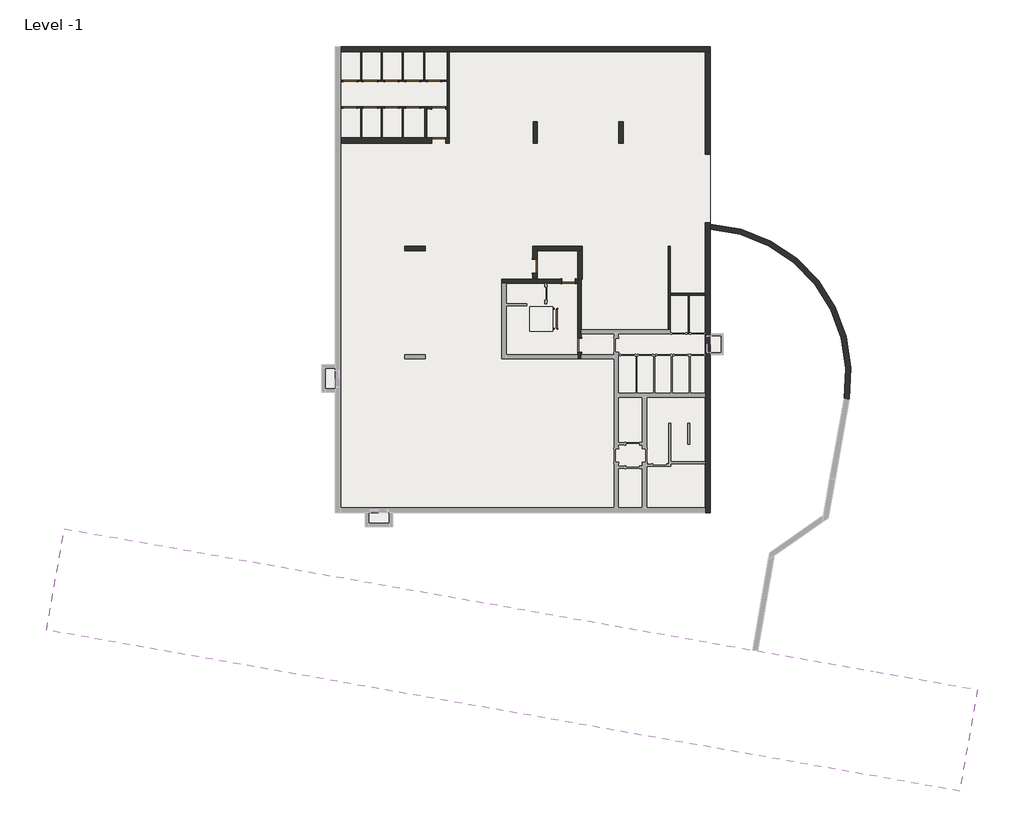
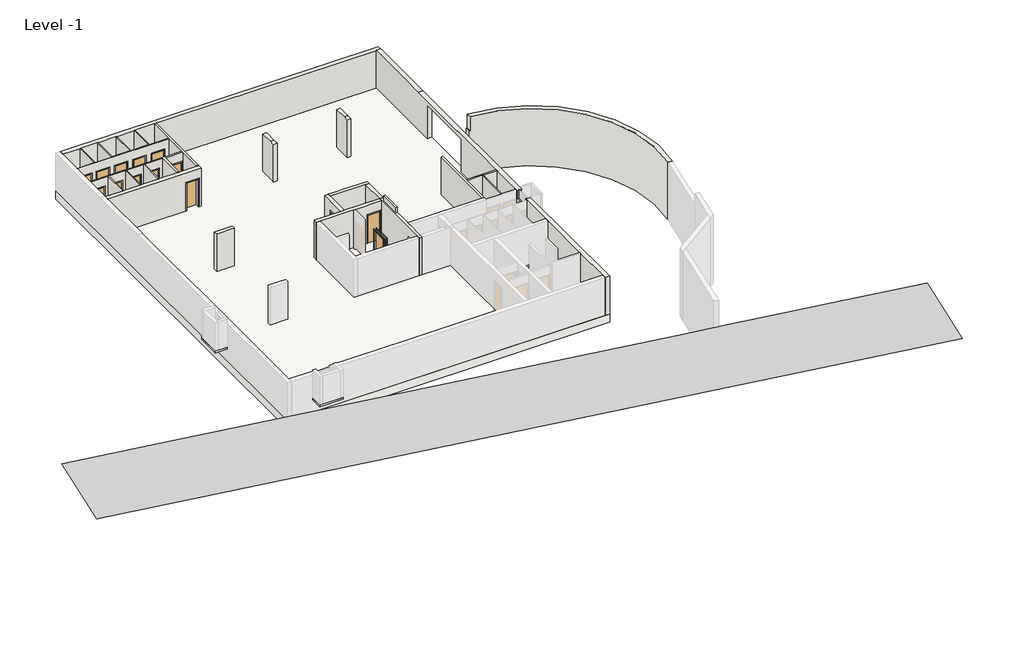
# One storey, part 2 of 2: 27 walls, 14 doors, 5 slabs, 1 proxy.
"""IFC4 building model written with IfcOpenShell, lengths in millimetres."""

from ifc_helpers import new_model, si_unit, frame, origin, place, context, project, spatial, polyline, circle_curve, outline, extrude, faceted_brep, triangles, transform, mapped, element, save
from ifc_brep_helpers import plane_surface, cylinder_surface, revolved_surface, advanced_brep
from components import standard_door_sd_1100x2000_1d62120a, standard_door_sd_800x2000_125e4961, standard_door_sd_800x2000_3ea96131, standard_door_sd_800x2000_59be3646, standard_door_sd_800x2000_a65bdf52, standard_door_sd_800x2000_c4456082

model = new_model("IFC4")

# Units and contexts
model_context = context("Model", 3, world=origin())
ifc_project = project(units=[si_unit("LENGTHUNIT", "METRE", prefix="MILLI")], contexts=[model_context])

# Site, building, storey
site = spatial("IfcSite", under=ifc_project)
building = spatial("IfcBuilding", under=site)
storey = spatial("IfcBuildingStorey", under=building, Name="Level -1", Elevation=-3100.0)

# Proxy
placement = place(None, origin())
element("IfcBuildingElementProxy", 1, Name="Building Element Proxy", at=placement, inside=storey, context=model_context, shape_type="Tessellation", body=[
    triangles([(-29384.1506104, -17883.2107544, -100.0000008), (23796.8823486, -27260.4616333, -100.0000008), (24837.1421082, -21349.2898865, -100.0000008), (18927.9481476, -20309.3766174, -100.0000008), (18632.5057159, -20257.2821228, -100.0000008), (12034.2933472, -19093.8403473, -100.0000008), (10244.7211853, -18780.6943451, -100.0000008), (-22215.7881592, -13057.0262695, -100.0000008), (-28342.6723206, -11976.6910492, -100.0000008)], [[1, 7, 8], [7, 1, 2], [8, 9, 1], [2, 3, 4], [2, 5, 6], [5, 2, 4], [2, 6, 7]], closed=False),
])

# Doors
standard_door_sd_1100x2000_shape = standard_door_sd_1100x2000_1d62120a(model_context)
element("IfcDoor", 2, ObjectType="Standard Door : SD 1100x2000", at=placement, inside=storey, context=model_context, shape_type="MappedRepresentation", body=[
    mapped(standard_door_sd_1100x2000_shape, transform((277.8037835, 250.1290541, -3100.0), x_axis=(0.0, -1.0, 0.0), y_axis=(1.0, 0.0, 0.0), z_axis=(0.0, 0.0, 1.0))),
])
standard_door_sd_800x2000_shape = standard_door_sd_800x2000_125e4961(model_context)
element("IfcDoor", 3, ObjectType="Standard Door : SD 800x2000", at=placement, inside=storey, context=model_context, shape_type="MappedRepresentation", body=[
    mapped(standard_door_sd_800x2000_shape, transform((-6815.2612912, 14107.6290541, -3100.0), x_axis=(1.0, 0.0, 0.0), y_axis=(0.0, 1.0, 0.0), z_axis=(0.0, 0.0, 1.0))),
])
element("IfcDoor", 4, ObjectType="Standard Door : SD 800x2000", at=placement, inside=storey, context=model_context, shape_type="MappedRepresentation", body=[
    mapped(standard_door_sd_800x2000_shape, transform((-8055.2612912, 14107.6290541, -3100.0), x_axis=(1.0, 0.0, 0.0), y_axis=(0.0, 1.0, 0.0), z_axis=(0.0, 0.0, 1.0))),
])
element("IfcDoor", 5, ObjectType="Standard Door : SD 800x2000", at=placement, inside=storey, context=model_context, shape_type="MappedRepresentation", body=[
    mapped(standard_door_sd_800x2000_shape, transform((-9295.2612912, 14107.6290541, -3100.0), x_axis=(1.0, 0.0, 0.0), y_axis=(0.0, 1.0, 0.0), z_axis=(0.0, 0.0, 1.0))),
])
element("IfcDoor", 6, ObjectType="Standard Door : SD 800x2000", at=placement, inside=storey, context=model_context, shape_type="MappedRepresentation", body=[
    mapped(standard_door_sd_800x2000_shape, transform((-10535.2612912, 14107.6290541, -3100.0), x_axis=(1.0, 0.0, 0.0), y_axis=(0.0, 1.0, 0.0), z_axis=(0.0, 0.0, 1.0))),
])
element("IfcDoor", 7, ObjectType="Standard Door : SD 800x2000", at=placement, inside=storey, context=model_context, shape_type="MappedRepresentation", body=[
    mapped(standard_door_sd_800x2000_shape, transform((-11715.2612912, 14107.6290541, -3100.0), x_axis=(1.0, 0.0, 0.0), y_axis=(0.0, 1.0, 0.0), z_axis=(0.0, 0.0, 1.0))),
])
standard_door_sd_800x2000_2_shape = standard_door_sd_800x2000_3ea96131(model_context)
element("IfcDoor", 8, ObjectType="Standard Door : SD 800x2000", at=placement, inside=storey, context=model_context, shape_type="MappedRepresentation", body=[
    mapped(standard_door_sd_800x2000_2_shape, transform((-11715.2612912, 12567.6290541, -3100.0), x_axis=(1.0, 0.0, 0.0), y_axis=(0.0, 1.0, 0.0), z_axis=(0.0, 0.0, 1.0))),
])
element("IfcDoor", 9, ObjectType="Standard Door : SD 800x2000", at=placement, inside=storey, context=model_context, shape_type="MappedRepresentation", body=[
    mapped(standard_door_sd_800x2000_2_shape, transform((-10535.2612912, 12567.6290541, -3100.0), x_axis=(1.0, 0.0, 0.0), y_axis=(0.0, 1.0, 0.0), z_axis=(0.0, 0.0, 1.0))),
])
element("IfcDoor", 10, ObjectType="Standard Door : SD 800x2000", at=placement, inside=storey, context=model_context, shape_type="MappedRepresentation", body=[
    mapped(standard_door_sd_800x2000_2_shape, transform((-9295.2612912, 12567.6290541, -3100.0), x_axis=(1.0, 0.0, 0.0), y_axis=(0.0, 1.0, 0.0), z_axis=(0.0, 0.0, 1.0))),
])
element("IfcDoor", 11, ObjectType="Standard Door : SD 800x2000", at=placement, inside=storey, context=model_context, shape_type="MappedRepresentation", body=[
    mapped(standard_door_sd_800x2000_2_shape, transform((-8055.2612912, 12567.6290541, -3100.0), x_axis=(1.0, 0.0, 0.0), y_axis=(0.0, 1.0, 0.0), z_axis=(0.0, 0.0, 1.0))),
])
standard_door_sd_800x2000_3_shape = standard_door_sd_800x2000_59be3646(model_context)
element("IfcDoor", 12, ObjectType="Standard Door : SD 800x2000", at=placement, inside=storey, context=model_context, shape_type="MappedRepresentation", body=[
    mapped(standard_door_sd_800x2000_3_shape, transform((-937.1911601, 3317.6290541, -3100.0), x_axis=(0.0, -1.0, 0.0), y_axis=(1.0, 0.0, 0.0), z_axis=(0.0, 0.0, 1.0))),
])
element("IfcDoor", 13, ObjectType="Standard Door : SD 800x2000", at=placement, inside=storey, context=model_context, shape_type="MappedRepresentation", body=[
    mapped(standard_door_sd_800x2000_3_shape, transform((1022.8088399, 2442.6290541, -3100.0), x_axis=(-1.0, 0.0, 0.0), y_axis=(0.0, -1.0, 0.0), z_axis=(0.0, 0.0, 1.0))),
])
standard_door_sd_800x2000_4_shape = standard_door_sd_800x2000_a65bdf52(model_context)
element("IfcDoor", 14, ObjectType="Standard Door : SD 800x2000", at=placement, inside=storey, context=model_context, shape_type="MappedRepresentation", body=[
    mapped(standard_door_sd_800x2000_4_shape, transform((-6533.5911601, 10637.6290541, -3100.0), x_axis=(-1.0, 0.0, 0.0), y_axis=(0.0, -1.0, 0.0), z_axis=(0.0, 0.0, 1.0))),
])
standard_door_sd_800x2000_5_shape = standard_door_sd_800x2000_c4456082(model_context)
element("IfcDoor", 15, ObjectType="Standard Door : SD 800x2000", at=placement, inside=storey, context=model_context, shape_type="MappedRepresentation", body=[
    mapped(standard_door_sd_800x2000_5_shape, transform((-6533.5911601, 12532.6290541, -3100.0), x_axis=(-1.0, 0.0, 0.0), y_axis=(0.0, -1.0, 0.0), z_axis=(0.0, 0.0, 1.0))),
])

# Slabs
element("IfcSlab", 16, ObjectType="STB120 Light Pit", at=placement, inside=storey, context=model_context, shape_type="Brep", body=[
    faceted_brep([(-12557.1911601, -2432.3709459, -2220.0), (-12557.1911601, -4032.3709459, -2220.0), (-13363.5911601, -4032.3709459, -2220.0), (-13363.5911601, -2432.3709459, -2220.0), (-12557.1911601, -2432.3709459, -2100.0), (-13363.5911601, -2432.3709459, -2100.0), (-13363.5911601, -2632.3709459, -2100.0), (-13363.5911601, -4032.3709459, -2100.0), (-13163.5911601, -4032.3709459, -2100.0), (-12557.1911601, -4032.3709459, -2100.0)], [[[0, 1, 2, 3]], [[4, 5, 6, 7, 8, 9]], [[1, 0, 4, 9]], [[2, 1, 9, 8, 7]], [[3, 2, 7, 6, 5]], [[0, 3, 5, 4]]]),
])
element("IfcSlab", 17, ObjectType="STB120 Light Pit", at=placement, inside=storey, context=model_context, shape_type="Brep", body=[
    faceted_brep([(-9223.5911601, -11872.3709459, -2220.0), (-10823.5911601, -11872.3709459, -2220.0), (-10823.5911601, -11052.3709459, -2220.0), (-9223.5911601, -11052.3709459, -2220.0), (-9223.5911601, -11872.3709459, -2100.0), (-9223.5911601, -11052.3709459, -2100.0), (-10823.5911601, -11052.3709459, -2100.0), (-10823.5911601, -11872.3709459, -2100.0), (-10623.5911601, -11872.3709459, -2100.0), (-9423.5911601, -11872.3709459, -2100.0)], [[[0, 1, 2, 3]], [[4, 5, 6, 7, 8, 9]], [[1, 0, 4, 9, 8, 7]], [[2, 1, 7, 6]], [[3, 2, 6, 5]], [[0, 3, 5, 4]]]),
])
element("IfcSlab", 18, ObjectType="STB120 Light Pit", at=placement, inside=storey, context=model_context, shape_type="Brep", body=[
    faceted_brep([(10036.4088399, -1852.3709459, -2220.0), (9282.8088399, -1852.3709459, -2220.0), (9282.8088399, -612.3709455, -2220.0), (10036.4088399, -612.3709455, -2220.0), (10036.4088399, -1852.3709459, -2100.0), (10036.4088399, -732.3709455, -2100.0), (10036.4088399, -612.3709455, -2100.0), (9282.8088399, -612.3709455, -2100.0), (9282.8088399, -1852.3709459, -2100.0), (9916.4088399, -1852.3709459, -2100.0)], [[[0, 1, 2, 3]], [[4, 5, 6, 7, 8, 9]], [[1, 0, 4, 9, 8]], [[2, 1, 8, 7]], [[3, 2, 7, 6]], [[0, 3, 6, 5, 4]]]),
])
element("IfcSlab", 19, ObjectType="STB400", at=placement, inside=storey, context=model_context, shape_type="Brep", body=[
    faceted_brep([(362.8037835, 1117.6290541, -4900.0), (362.8037835, -632.3709459, -4900.0), (-1407.1962165, -632.3709459, -4900.0), (-1407.1962165, 1117.6290541, -4900.0), (362.8037835, 1117.6290541, -4500.0), (-1407.1962165, 1117.6290541, -4500.0), (-1407.1962165, 947.6290541, -4500.0), (-1407.1962165, -632.3709459, -4500.0), (-1237.1962165, -632.3709459, -4500.0), (362.8037835, -632.3709459, -4500.0), (362.8037835, -462.3709459, -4500.0), (362.8037835, 947.6290541, -4500.0)], [[[0, 1, 2, 3]], [[4, 5, 6, 7, 8, 9, 10, 11]], [[1, 0, 4, 11, 10, 9]], [[2, 1, 9, 8, 7]], [[3, 2, 7, 6, 5]], [[0, 3, 5, 4]]]),
])
element("IfcSlab", 20, ObjectType="STB400 + 180 Lining", at=placement, inside=storey, context=model_context, shape_type="Brep", body=[
    faceted_brep([(9282.8088399, 16107.6290541, -3680.0), (9282.8088399, -11052.3709459, -3680.0), (-12557.1911601, -11052.3709459, -3680.0), (-12557.1911601, 16107.6290541, -3680.0), (87.8037835, 947.6290541, -3680.0), (-1237.1962165, 947.6290541, -3680.0), (-1237.1962165, -462.3709459, -3680.0), (87.8037835, -462.3709459, -3680.0), (9282.8088399, 16107.6290541, -3100.0), (-12257.1911601, 16107.6290541, -3100.0), (-12557.1911601, 16107.6290541, -3100.0), (-12557.1911601, -11052.3709459, -3100.0), (-12257.1911601, -11052.3709459, -3100.0), (8982.8088399, -11052.3709459, -3100.0), (9282.8088399, -11052.3709459, -3100.0), (9282.8088399, 5833.9107709, -3100.0), (9282.8088399, 9833.9107709, -3100.0), (9282.8088399, 15807.6290541, -3100.0), (87.8037835, 947.6290541, -3100.0), (87.8037835, -462.3709459, -3100.0), (-1237.1962165, -462.3709459, -3100.0), (-1237.1962165, 947.6290541, -3100.0)], [[[0, 1, 2, 3], [4, 5, 6, 7]], [[8, 9, 10, 11, 12, 13, 14, 15, 16, 17], [18, 19, 20, 21]], [[1, 0, 8, 17, 16, 15, 14]], [[2, 1, 14, 13, 12, 11]], [[3, 2, 11, 10]], [[0, 3, 10, 9, 8]], [[5, 4, 18, 21]], [[6, 5, 21, 20]], [[7, 6, 20, 19]], [[4, 7, 19, 18]]]),
])

# Walls
element("IfcWall", 21, ObjectType="Exterior - STB 300mm", at=placement, inside=storey, context=model_context, shape_type="Brep", body=[
    faceted_brep([(9282.8088399, 15807.6290541, -3100.0), (8982.8088399, 15807.6290541, -3100.0), (-5923.5911601, 15807.6290541, -3100.0), (-6043.5911601, 15807.6290541, -3100.0), (-7363.5911601, 15807.6290541, -3100.0), (-7413.5911601, 15807.6290541, -3100.0), (-8603.5911601, 15807.6290541, -3100.0), (-8653.5911601, 15807.6290541, -3100.0), (-9843.5911601, 15807.6290541, -3100.0), (-9893.5911601, 15807.6290541, -3100.0), (-11023.5911601, 15807.6290541, -3100.0), (-11073.5911601, 15807.6290541, -3100.0), (-12257.1911601, 15807.6290541, -3100.0), (-12257.1911601, 16107.6290541, -3100.0), (9282.8088399, 16107.6290541, -3100.0), (9282.8088399, 15807.6290541, -409.0), (-7363.5911601, 15807.6290541, -409.0), (-7413.5911601, 15807.6290541, -409.0), (-8603.5911601, 15807.6290541, -409.0), (-8653.5911601, 15807.6290541, -409.0), (-9843.5911601, 15807.6290541, -409.0), (-9893.5911601, 15807.6290541, -409.0), (-11023.5911601, 15807.6290541, -409.0), (-11073.5911601, 15807.6290541, -409.0), (-12257.1911601, 15807.6290541, -409.0), (-12257.1911601, 16107.6290541, -409.0), (9282.8088399, 16107.6290541, -409.0)], [[[0, 1, 2, 3, 4, 5, 6, 7, 8, 9, 10, 11, 12, 13, 14]], [[12, 11, 10, 9, 8, 7, 6, 5, 4, 3, 2, 1, 0, 15, 16, 17, 18, 19, 20, 21, 22, 23, 24]], [[13, 25, 26, 14]], [[12, 24, 25, 13]], [[15, 0, 14, 26]], [[24, 23, 22, 21, 20, 19, 18, 17, 16, 15, 26, 25]]]),
])
element("IfcWall", 22, ObjectType="Exterior - STB 300mm", at=placement, inside=storey, context=model_context, shape_type="Brep", body=[
    faceted_brep([(8982.8088399, 15807.6290541, -3100.0), (9282.8088399, 15807.6290541, -3100.0), (9282.8088399, 10769.2254579, -3100.0), (9282.8088399, 9901.4107709, -3100.0), (9282.8088399, 9833.9107709, -3100.0), (8982.8088399, 9833.9107709, -3100.0), (9282.8088399, -11052.3709459, -3100.0), (8982.8088399, -11052.3709459, -3100.0), (8982.8088399, -10752.3709459, -3100.0), (8982.8088399, -8182.3709459, -3100.0), (8982.8088399, -8062.3709459, -3100.0), (8982.8088399, -4332.3709459, -3100.0), (8982.8088399, -4082.3709459, -3100.0), (8982.8088399, -1882.3709459, -3100.0), (8982.8088399, -1832.3709459, -3100.0), (8982.8088399, -632.3709459, -3100.0), (8982.8088399, -582.3709459, -3100.0), (8982.8088399, 1617.6290541, -3100.0), (8982.8088399, 1737.6290541, -3100.0), (8982.8088399, 5833.9107709, -3100.0), (9282.8088399, 5833.9107709, -3100.0), (9282.8088399, 5766.4923812, -3100.0), (9282.8088399, 5465.8077821, -3100.0), (8982.8088399, 15807.6290541, -400.0), (8982.8088399, 9833.9107709, -700.0), (8982.8088399, 5833.9107709, -700.0), (8982.8088399, -11052.3709459, -400.0), (8982.8088399, -10752.3709459, -400.0), (8982.8088399, -8182.3709459, -400.0), (8982.8088399, -8062.3709459, -400.0), (8982.8088399, -8052.3709459, -400.0), (8982.8088399, -5832.3709459, -400.0), (8982.8088399, -4332.3709459, -400.0), (8982.8088399, -4082.3709459, -400.0), (8982.8088399, -1882.3709459, -400.0), (8982.8088399, -1832.3709459, -400.0), (8982.8088399, -1732.3709482, -400.0), (8982.8088399, -1732.3709482, -1000.0), (8982.8088399, -732.3709482, -1000.0), (8982.8088399, -732.3709482, -400.0), (8982.8088399, -632.3709459, -400.0), (8982.8088399, -582.3709459, -400.0), (8982.8088399, 1617.6290541, -400.0), (8982.8088399, 1737.6290541, -400.0), (8982.8088399, 10867.6290541, -400.0), (9282.8088399, 15807.6290541, -409.0), (9282.8088399, 15807.6290541, -400.0), (9282.8088399, 10867.6290541, -400.0), (9282.8088399, 10389.7527089, -400.0), (9282.8088399, 9901.4107709, -400.0), (9282.8088399, -732.3709482, -400.0), (9282.8088399, -732.3709482, -1000.0), (9282.8088399, -1732.3709482, -1000.0), (9282.8088399, -1732.3709482, -400.0), (9282.8088399, -11052.3709459, -400.0), (9282.8088399, 5833.9107709, -700.0), (9282.8088399, 9833.9107709, -700.0)], [[[0, 1, 2, 3, 4, 5]], [[6, 7, 8, 9, 10, 11, 12, 13, 14, 15, 16, 17, 18, 19, 20, 21, 22]], [[23, 0, 5, 24, 25, 19, 18, 17, 16, 15, 14, 13, 12, 11, 10, 9, 8, 7, 26, 27, 28, 29, 30, 31, 32, 33, 34, 35, 36, 37, 38, 39, 40, 41, 42, 43, 44]], [[1, 45, 46, 47, 48, 49, 50, 51, 52, 53, 54, 6, 22, 21, 20, 55, 56, 4, 3, 2]], [[0, 23, 46, 45, 1]], [[26, 7, 6, 54]], [[46, 23, 44, 47]], [[26, 54, 53, 36, 35, 34, 33, 32, 31, 30, 29, 28, 27]], [[47, 44, 43, 42, 41, 40, 39, 50, 49, 48]], [[56, 24, 5, 4]], [[25, 55, 20, 19]], [[24, 56, 55, 25]], [[38, 51, 50, 39]], [[52, 37, 36, 53]], [[51, 38, 37, 52]]]),
])
element("IfcWall", 23, ObjectType="Exterior - STB 300mm", at=placement, inside=storey, context=model_context, shape_type="Brep", body=[
    faceted_brep([(-12257.1911601, 10787.6290541, -3100.0), (-11073.5911601, 10787.6290541, -3100.0), (-11023.5911601, 10787.6290541, -3100.0), (-9893.5911601, 10787.6290541, -3100.0), (-9843.5911601, 10787.6290541, -3100.0), (-8653.5911601, 10787.6290541, -3100.0), (-8603.5911601, 10787.6290541, -3100.0), (-7363.5911601, 10787.6290541, -3100.0), (-7243.5911601, 10787.6290541, -3100.0), (-6933.5911601, 10787.6290541, -3100.0), (-6933.5911601, 10487.6290541, -3100.0), (-12257.1911601, 10487.6290541, -3100.0), (-6133.5911601, 10787.6290541, -3100.0), (-6043.5911601, 10787.6290541, -3100.0), (-5923.5911601, 10787.6290541, -3100.0), (-5923.5911601, 10487.6290541, -3100.0), (-6133.5911601, 10487.6290541, -3100.0), (-6933.5911601, 10487.6290541, -1100.0), (-6133.5911601, 10487.6290541, -1100.0), (-5923.5911601, 10487.6290541, -400.0), (-12257.1911601, 10487.6290541, -400.0), (-6933.5911601, 10787.6290541, -1100.0), (-12257.1911601, 10787.6290541, -400.0), (-11073.5911601, 10787.6290541, -400.0), (-11023.5911601, 10787.6290541, -400.0), (-9893.5911601, 10787.6290541, -400.0), (-9843.5911601, 10787.6290541, -400.0), (-8653.5911601, 10787.6290541, -400.0), (-8603.5911601, 10787.6290541, -400.0), (-7363.5911601, 10787.6290541, -400.0), (-7243.5911601, 10787.6290541, -400.0), (-6043.5911601, 10787.6290541, -400.0), (-5923.5911601, 10787.6290541, -400.0), (-6133.5911601, 10787.6290541, -1100.0)], [[[0, 1, 2, 3, 4, 5, 6, 7, 8, 9, 10, 11]], [[12, 13, 14, 15, 16]], [[11, 10, 17, 18, 16, 15, 19, 20]], [[21, 9, 8, 7, 6, 5, 4, 3, 2, 1, 0, 22, 23, 24, 25, 26, 27, 28, 29, 30, 31, 32, 14, 13, 12, 33]], [[11, 20, 22, 0]], [[19, 15, 14, 32]], [[20, 19, 32, 31, 30, 29, 28, 27, 26, 25, 24, 23, 22]], [[17, 10, 9, 21]], [[18, 17, 21, 33]], [[16, 18, 33, 12]]]),
])
element("IfcWall", 24, ObjectType="Exterior - STB 300mm", at=placement, inside=storey, context=model_context, shape_type="AdvancedBrep", body=[
    advanced_brep(
    [(17360.0752435, -4438.5110541, 1000.0), (9362.8037835, 5760.8115585, 1000.0), (9362.8037835, 5459.9248888, 1000.0), (17064.3928143, -4387.7782943, 1000.0), (17360.0752435, -4438.5110541, -3100.0), (17064.3928143, -4387.7782943, -3100.0), (9282.8088399, 5465.8077821, -3100.0), (9282.8088399, 5766.4923812, -3100.0), (9282.8088399, 5766.4923812, 0.0), (9362.8037835, 5760.8115585, 0.0), (9362.8037835, 5459.9248888, 0.0), (9282.8088399, 5465.8077821, 0.0)],
    [
        (0, 1, circle_curve(frame((8700.9450523, -2993.1355038, 1000.0), z_axis=(0.0, 0.0, 1.0), x_axis=(1.0, 0.0, 0.0)), 8778.9319481)),
        (1, 2),
        (2, 3, circle_curve(frame((8700.9450523, -2993.1355038, 1000.0), z_axis=(0.0, 0.0, -1.0), x_axis=(1.0, 0.0, 0.0)), 8478.9319481)),
        (3, 0),
        (4, 5),
        (5, 6, circle_curve(frame((8700.9450523, -2993.1355038, -3100.0), z_axis=(0.0, 0.0, 1.0), x_axis=(1.0, 0.0, 0.0)), 8478.9319481)),
        (6, 7),
        (7, 4, circle_curve(frame((8700.9450523, -2993.1355038, -3100.0), z_axis=(0.0, 0.0, -1.0), x_axis=(1.0, 0.0, 0.0)), 8778.9319481)),
        (0, 4),
        (7, 8),
        (8, 9, circle_curve(frame((8700.9450523, -2993.1355038, 0.0), z_axis=(0.0, 0.0, -1.0), x_axis=(1.0, 0.0, 0.0)), 8778.9319481)),
        (9, 1),
        (2, 10),
        (10, 11, circle_curve(frame((8700.9450523, -2993.1355038, 0.0), z_axis=(0.0, 0.0, 1.0), x_axis=(1.0, 0.0, 0.0)), 8478.9319481)),
        (11, 6),
        (5, 3),
        (10, 9),
        (8, 11),
    ],
    [
        plane_surface(frame((17479.8770004, -2993.1355038, 1000.0), z_axis=(0.0, 0.0, 1.0), x_axis=(0.0, 1.0, 0.0))),
        plane_surface(frame((17479.8770004, -2993.1355038, -3100.0), z_axis=(0.0, 0.0, -1.0), x_axis=(0.0, -1.0, 0.0))),
        cylinder_surface(frame((8700.9450523, -2993.1355038, -3100.0), z_axis=(0.0, 0.0, 1.0), x_axis=(1.0, 0.0, 0.0)), 8778.9319481),
        revolved_surface(polyline([(17179.8770004, -2993.1355038, -3100.0), (17179.8770004, -2993.1355038, 1000.0)]), (8700.9450523, -2993.1355038, -3100.0), (0.0, 0.0, -1.0)),
        plane_surface(frame((17064.3928143, -4387.7782943, -3100.0), z_axis=(-0.1691074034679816, -0.9855976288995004, 0.0), x_axis=(0.9855976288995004, -0.1691074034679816, 0.0))),
        plane_surface(frame((9140.3160921, 5774.7946533, 0.0), z_axis=(0.0, 0.0, 1.0), x_axis=(1.0, 0.0, 0.0))),
        plane_surface(frame((9282.8088399, 16107.6290541, -3100.0), z_axis=(-1.0, 0.0, 0.0), x_axis=(0.0, 1.0, 0.0))),
        plane_surface(frame((9362.8037835, 10567.6290541, 0.0), z_axis=(-1.0, 0.0, 0.0), x_axis=(0.0, 1.0, 0.0))),
    ],
    [
        (0, [[1, 2, 3, 4]]),
        (1, [[5, 6, 7, 8]]),
        (2, [[-1, 9, -8, 10, 11, 12]]),
        (3, [[-3, 13, 14, 15, -6, 16]]),
        (4, [[-4, -16, -5, -9]]),
        (5, [[17, -11, 18, -14]]),
        (6, [[-10, -7, -15, -18]]),
        (7, [[-2, -12, -17, -13]]),
    ],
),
])
element("IfcWall", 25, ObjectType="Interior - 120mm", at=placement, inside=storey, context=model_context, shape_type="Brep", body=[
    faceted_brep([(6946.4088399, -382.3709459, -3100.0), (6946.4088399, 1617.6290541, -3100.0), (6946.4088399, 1737.6290541, -3100.0), (6946.4088399, 4467.6290541, -3100.0), (6946.4088399, 4467.6290541, -400.0), (6946.4088399, 1737.6290541, -400.0), (6946.4088399, 1617.6290541, -400.0), (6946.4088399, -382.3709459, -400.0), (6826.4088399, -382.3709459, -3100.0), (6826.4088399, -382.3709459, -400.0), (6826.4088399, 4467.6290541, -400.0), (6826.4088399, 4467.6290541, -3100.0)], [[[0, 1, 2, 3, 4, 5, 6, 7]], [[8, 9, 10, 11]], [[3, 2, 1, 0, 8, 11]], [[4, 3, 11, 10]], [[0, 7, 9, 8]], [[7, 6, 5, 4, 10, 9]]]),
])
element("IfcWall", 26, ObjectType="Interior - 120mm", at=placement, inside=storey, context=model_context, shape_type="Brep", body=[
    faceted_brep([(6946.4088399, 1617.6290541, -3100.0), (7986.4088399, 1617.6290541, -3100.0), (8036.4088399, 1617.6290541, -3100.0), (8982.8088399, 1617.6290541, -3100.0), (8982.8088399, 1617.6290541, -400.0), (8036.4088399, 1617.6290541, -400.0), (7986.4088399, 1617.6290541, -400.0), (6946.4088399, 1617.6290541, -400.0), (6946.4088399, 1737.6290541, -3100.0), (6946.4088399, 1737.6290541, -400.0), (8982.8088399, 1737.6290541, -400.0), (8982.8088399, 1737.6290541, -3100.0)], [[[0, 1, 2, 3, 4, 5, 6, 7]], [[8, 9, 10, 11]], [[3, 2, 1, 0, 8, 11]], [[4, 3, 11, 10]], [[0, 7, 9, 8]], [[7, 6, 5, 4, 10, 9]]]),
])
element("IfcWall", 27, ObjectType="Interior - 120mm", at=placement, inside=storey, context=model_context, shape_type="Brep", body=[
    faceted_brep([(-5923.5911601, 10787.6290541, -3100.0), (-5923.5911601, 15807.6290541, -3100.0), (-5923.5911601, 15807.6290541, -400.0), (-5923.5911601, 10867.6290541, -400.0), (-5923.5911601, 10787.6290541, -400.0), (-6043.5911601, 10787.6290541, -3100.0), (-6043.5911601, 10787.6290541, -400.0), (-6043.5911601, 10867.6290541, -400.0), (-6043.5911601, 15807.6290541, -400.0), (-6043.5911601, 15807.6290541, -3100.0), (-6043.5911601, 14132.6290541, -3100.0), (-6043.5911601, 14082.6290541, -3100.0), (-6043.5911601, 12592.6290541, -3100.0), (-6043.5911601, 12472.6290541, -3100.0)], [[[0, 1, 2, 3, 4]], [[5, 6, 7, 8, 9, 10, 11, 12, 13]], [[1, 0, 5, 13, 12, 11, 10, 9]], [[0, 4, 6, 5]], [[2, 1, 9, 8]], [[3, 2, 8, 7]], [[4, 3, 7, 6]]]),
])
element("IfcWall", 28, ObjectType="Interior - 120mm", at=placement, inside=storey, context=model_context, shape_type="Brep", body=[
    faceted_brep([(-7243.5911601, 10787.6290541, -3100.0), (-7243.5911601, 12472.6290541, -3100.0), (-7243.5911601, 12592.6290541, -3100.0), (-7243.5911601, 12592.6290541, -409.0), (-7243.5911601, 12592.6290541, -400.0), (-7243.5911601, 10867.6290541, -400.0), (-7243.5911601, 10787.6290541, -400.0), (-7363.5911601, 10787.6290541, -3100.0), (-7363.5911601, 10787.6290541, -400.0), (-7363.5911601, 10867.6290541, -400.0), (-7363.5911601, 12592.6290541, -400.0), (-7363.5911601, 12592.6290541, -409.0), (-7363.5911601, 12592.6290541, -3100.0), (-7363.5911601, 12542.6290541, -3100.0)], [[[0, 1, 2, 3, 4, 5, 6]], [[7, 8, 9, 10, 11, 12, 13]], [[2, 1, 0, 7, 13, 12]], [[4, 3, 2, 12, 11, 10]], [[0, 6, 8, 7]], [[5, 4, 10, 9]], [[6, 5, 9, 8]]]),
])
element("IfcWall", 29, ObjectType="Interior - 120mm", at=placement, inside=storey, context=model_context, shape_type="SweptSolid", body=[
    extrude(outline(polyline([(-3100.0, -7243.5911601), (-3100.0, -6933.5911601), (-1100.0, -6933.5911601), (-1100.0, -6133.5911601), (-3100.0, -6133.5911601), (-3100.0, -6043.5911601), (-409.0, -6043.5911601), (-409.0, -7243.5911601), (-3100.0, -7243.5911601)])), frame((0.0, 12472.6290541, 0.0), z_axis=(0.0, 1.0, 0.0), x_axis=(0.0, 0.0, 1.0)), (0.0, 0.0, 1.0), 120.0),
])
element("IfcWall", 30, ObjectType="Interior - 200mm", at=placement, inside=storey, context=model_context, shape_type="Brep", body=[
    faceted_brep([(1562.8088399, -892.8016415, -3100.0), (1562.8088399, -892.8016415, -1100.0), (1562.8088399, -1692.8016415, -1100.0), (1562.8088399, -1692.8016415, -3100.0), (1562.8088399, -1832.3709459, -3100.0), (1562.8088399, -2082.3709459, -3100.0), (1562.8088399, -2082.3709459, -400.0), (1562.8088399, -1832.3709459, -400.0), (1562.8088399, 2317.6290541, -400.0), (1562.8088399, 2567.6290541, -400.0), (1562.8088399, 2567.6290541, -3100.0), (1562.8088399, 2317.6290541, -3100.0), (1762.8088399, -892.8016415, -1100.0), (1762.8088399, -892.8016415, -3100.0), (1762.8088399, -632.3709459, -3100.0), (1762.8088399, -382.3709459, -3100.0), (1762.8088399, 2567.6290541, -3100.0), (1762.8088399, 2567.6290541, -400.0), (1762.8088399, 2217.6290541, -400.0), (1762.8088399, 2217.6290541, 0.0), (1762.8088399, 817.6290541, 0.0), (1762.8088399, 817.6290541, -400.0), (1762.8088399, 567.6290541, -400.0), (1762.8088399, -382.3709459, -400.0), (1762.8088399, -632.3709459, -400.0), (1762.8088399, -1832.3709459, -400.0), (1762.8088399, -2082.3709459, -400.0), (1762.8088399, -2082.3709459, -3100.0), (1762.8088399, -1832.3709459, -3100.0), (1762.8088399, -1692.8016415, -3100.0), (1762.8088399, -1692.8016415, -1100.0), (1662.8088399, 2217.6290541, 0.0), (1662.8088399, 817.6290541, 0.0), (1662.8088399, 817.6290541, -400.0), (1662.8088399, 2217.6290541, -400.0)], [[[0, 1, 2, 3, 4, 5, 6, 7, 8, 9, 10, 11]], [[12, 13, 14, 15, 16, 17, 18, 19, 20, 21, 22, 23, 24, 25, 26, 27, 28, 29, 30]], [[10, 16, 15, 14, 13, 0, 11]], [[27, 5, 4, 3, 29, 28]], [[20, 19, 31, 32]], [[16, 10, 9, 17]], [[5, 27, 26, 6]], [[1, 0, 13, 12]], [[2, 1, 12, 30]], [[3, 2, 30, 29]], [[33, 34, 18, 17, 9, 8, 7, 6, 26, 25, 24, 23, 22, 21]], [[34, 33, 32, 31]], [[32, 33, 21, 20]], [[34, 31, 19, 18]]]),
])
element("IfcWall", 31, ObjectType="Interior - 250mm", at=placement, inside=storey, context=model_context, shape_type="Brep", body=[
    faceted_brep([(-2857.1911601, 2317.6290541, -3100.0), (-2607.1911601, 2317.6290541, -3100.0), (-357.1911601, 2317.6290541, -3100.0), (-237.1911601, 2317.6290541, -3100.0), (622.8088399, 2317.6290541, -3100.0), (622.8088399, 2317.6290541, -1100.0), (1422.8088399, 2317.6290541, -1100.0), (1422.8088399, 2317.6290541, -3100.0), (1562.8088399, 2317.6290541, -3100.0), (1562.8088399, 2317.6290541, -400.0), (-237.1911601, 2317.6290541, -400.0), (-357.1911601, 2317.6290541, -400.0), (-582.1962165, 2317.6290541, -400.0), (-2607.1962165, 2317.6290541, -400.0), (-2857.1911601, 2317.6290541, -400.0), (622.8088399, 2567.6290541, -1100.0), (622.8088399, 2567.6290541, -3100.0), (-812.1911601, 2567.6290541, -3100.0), (-1062.1911601, 2567.6290541, -3100.0), (-2857.1911601, 2567.6290541, -3100.0), (-2857.1911601, 2567.6290541, -400.0), (-1062.1911601, 2567.6290541, -400.0), (-812.1911601, 2567.6290541, -400.0), (1562.8088399, 2567.6290541, -400.0), (1562.8088399, 2567.6290541, -3100.0), (1422.8088399, 2567.6290541, -3100.0), (1422.8088399, 2567.6290541, -1100.0)], [[[0, 1, 2, 3, 4, 5, 6, 7, 8, 9, 10, 11, 12, 13, 14]], [[15, 16, 17, 18, 19, 20, 21, 22, 23, 24, 25, 26]], [[19, 18, 17, 16, 4, 3, 2, 1, 0]], [[25, 24, 8, 7]], [[9, 8, 24, 23]], [[0, 14, 20, 19]], [[14, 13, 12, 11, 10, 9, 23, 22, 21, 20]], [[5, 4, 16, 15]], [[6, 5, 15, 26]], [[7, 6, 26, 25]]]),
])
element("IfcWall", 32, ObjectType="Interior - 250mm", at=placement, inside=storey, context=model_context, shape_type="Brep", body=[
    faceted_brep([(-1062.1911601, 2567.6290541, -3100.0), (-1062.1911601, 2917.6290541, -3100.0), (-812.1911601, 2917.6290541, -3100.0), (-812.1911601, 2567.6290541, -3100.0), (-1062.1911601, 3717.6290541, -3100.0), (-1062.1911601, 4467.6290541, -3100.0), (-812.1911601, 4467.6290541, -3100.0), (-812.1911601, 4217.6290541, -3100.0), (-812.1911601, 3717.6290541, -3100.0), (-812.1911601, 2917.6290541, -1100.0), (-812.1911601, 3717.6290541, -1100.0), (-812.1911601, 4467.6290541, -400.0), (-812.1911601, 4217.6290541, -400.0), (-812.1911601, 2567.6290541, -400.0), (-1062.1911601, 2917.6290541, -1100.0), (-1062.1911601, 2567.6290541, -400.0), (-1062.1911601, 4467.6290541, -400.0), (-1062.1911601, 3717.6290541, -1100.0)], [[[0, 1, 2, 3]], [[4, 5, 6, 7, 8]], [[3, 2, 9, 10, 8, 7, 6, 11, 12, 13]], [[14, 1, 0, 15, 16, 5, 4, 17]], [[3, 13, 15, 0]], [[11, 6, 5, 16]], [[13, 12, 11, 16, 15]], [[9, 2, 1, 14]], [[10, 9, 14, 17]], [[8, 10, 17, 4]]]),
])
element("IfcWall", 33, ObjectType="Interior - 250mm", at=placement, inside=storey, context=model_context, shape_type="Brep", body=[
    faceted_brep([(-812.1911601, 4217.6290541, -3100.0), (1562.8088399, 4217.6290541, -3100.0), (1812.8088399, 4217.6290541, -3100.0), (1812.8088399, 4217.6290541, -400.0), (1562.8088399, 4217.6290541, -400.0), (-812.1911601, 4217.6290541, -400.0), (-812.1911601, 4467.6290541, -3100.0), (-812.1911601, 4467.6290541, -400.0), (-387.1962165, 4467.6290541, -400.0), (-137.1962165, 4467.6290541, -400.0), (112.8037835, 4467.6290541, -400.0), (1812.8088399, 4467.6290541, -400.0), (1812.8088399, 4467.6290541, -3100.0)], [[[0, 1, 2, 3, 4, 5]], [[6, 7, 8, 9, 10, 11, 12]], [[2, 1, 0, 6, 12]], [[3, 2, 12, 11]], [[0, 5, 7, 6]], [[5, 4, 3, 11, 10, 9, 8, 7]]]),
])
element("IfcWall", 34, ObjectType="Interior - 250mm", at=placement, inside=storey, context=model_context, shape_type="Brep", body=[
    faceted_brep([(1812.8088399, 2567.6290541, -3100.0), (1812.8088399, 4217.6290541, -3100.0), (1812.8088399, 4217.6290541, -400.0), (1812.8088399, 2567.6290541, -400.0), (1562.8088399, 2567.6290541, -3100.0), (1562.8088399, 2567.6290541, -400.0), (1562.8088399, 4217.6290541, -400.0), (1562.8088399, 4217.6290541, -3100.0), (1762.8088399, 2567.6290541, -3100.0), (1762.8088399, 2567.6290541, -400.0)], [[[0, 1, 2, 3]], [[4, 5, 6, 7]], [[1, 0, 8, 4, 7]], [[0, 3, 9, 5, 4, 8]], [[2, 1, 7, 6]], [[3, 2, 6, 5, 9]]]),
])
element("IfcWall", 35, ObjectType="Interior - 250mm", at=placement, inside=storey, context=model_context, shape_type="SweptSolid", body=[
    extrude(outline(polyline([(10487.6290541, -3100.0), (10487.6290541, -400.0), (10867.6290541, -400.0), (11717.6290541, -400.0), (11717.6290541, -3100.0), (10487.6290541, -3100.0)])), frame((-1048.5911601, 0.0, 0.0), z_axis=(1.0, 0.0, 0.0), x_axis=(0.0, 1.0, 0.0)), (0.0, 0.0, 1.0), 250.0),
])
element("IfcWall", 36, ObjectType="Interior - 250mm", at=placement, inside=storey, context=model_context, shape_type="SweptSolid", body=[
    extrude(outline(polyline([(10487.6290541, -3100.0), (10487.6290541, -400.0), (10867.6290541, -400.0), (11717.6290541, -400.0), (11717.6290541, -3100.0), (10487.6290541, -3100.0)])), frame((3951.4088399, 0.0, 0.0), z_axis=(1.0, 0.0, 0.0), x_axis=(0.0, 1.0, 0.0)), (0.0, 0.0, 1.0), 250.0),
])
element("IfcWall", 37, ObjectType="Interior - 250mm", at=placement, inside=storey, context=model_context, shape_type="SweptSolid", body=[
    extrude(outline(polyline([(-8523.5911601, 4467.6290541), (-7323.5911601, 4467.6290541), (-7323.5911601, 4217.6290541), (-8523.5911601, 4217.6290541), (-8523.5911601, 4467.6290541)])), frame((0.0, 0.0, -3100.0), z_axis=(0.0, 0.0, 1.0), x_axis=(1.0, 0.0, 0.0)), (0.0, 0.0, 1.0), 2700.0),
])
element("IfcWall", 38, ObjectType="Interior - 500mm", at=placement, inside=storey, context=model_context, shape_type="Brep", body=[
    faceted_brep([(-12257.1911601, 12542.6290541, -3100.0), (-12257.1911601, 12592.6290541, -3100.0), (-12115.2612912, 12592.6290541, -3100.0), (-12115.2612912, 12542.6290541, -3100.0), (-7363.5911601, 12592.6290541, -3100.0), (-7363.5911601, 12542.6290541, -3100.0), (-7655.2612912, 12542.6290541, -3100.0), (-7655.2612912, 12592.6290541, -3100.0), (-11315.2612912, 12542.6290541, -3100.0), (-11315.2612912, 12592.6290541, -3100.0), (-10935.2612912, 12592.6290541, -3100.0), (-10935.2612912, 12542.6290541, -3100.0), (-11023.5911601, 12542.6290541, -3100.0), (-11073.5911601, 12542.6290541, -3100.0), (-10135.2612912, 12542.6290541, -3100.0), (-10135.2612912, 12592.6290541, -3100.0), (-9695.2612912, 12592.6290541, -3100.0), (-9695.2612912, 12542.6290541, -3100.0), (-9843.5911601, 12542.6290541, -3100.0), (-9893.5911601, 12542.6290541, -3100.0), (-8895.2612912, 12542.6290541, -3100.0), (-8895.2612912, 12592.6290541, -3100.0), (-8455.2612912, 12592.6290541, -3100.0), (-8455.2612912, 12542.6290541, -3100.0), (-8603.5911601, 12542.6290541, -3100.0), (-8653.5911601, 12542.6290541, -3100.0), (-12257.1911601, 12592.6290541, -409.0), (-7363.5911601, 12592.6290541, -409.0), (-7655.2612912, 12592.6290541, -1100.0), (-8455.2612912, 12592.6290541, -1100.0), (-8895.2612912, 12592.6290541, -1100.0), (-9695.2612912, 12592.6290541, -1100.0), (-10135.2612912, 12592.6290541, -1100.0), (-10935.2612912, 12592.6290541, -1100.0), (-11315.2612912, 12592.6290541, -1100.0), (-12115.2612912, 12592.6290541, -1100.0), (-12257.1911601, 12542.6290541, -409.0), (-12115.2612912, 12542.6290541, -1100.0), (-11315.2612912, 12542.6290541, -1100.0), (-10935.2612912, 12542.6290541, -1100.0), (-10135.2612912, 12542.6290541, -1100.0), (-9695.2612912, 12542.6290541, -1100.0), (-8895.2612912, 12542.6290541, -1100.0), (-8455.2612912, 12542.6290541, -1100.0), (-7655.2612912, 12542.6290541, -1100.0), (-7363.5911601, 12542.6290541, -409.0)], [[[0, 1, 2, 3]], [[4, 5, 6, 7]], [[8, 9, 10, 11, 12, 13]], [[14, 15, 16, 17, 18, 19]], [[20, 21, 22, 23, 24, 25]], [[1, 26, 27, 4, 7, 28, 29, 22, 21, 30, 31, 16, 15, 32, 33, 10, 9, 34, 35, 2]], [[36, 0, 3, 37, 38, 8, 13, 12, 11, 39, 40, 14, 19, 18, 17, 41, 42, 20, 25, 24, 23, 43, 44, 6, 5, 45]], [[26, 1, 0, 36]], [[4, 27, 45, 5]], [[27, 26, 36, 45]], [[34, 9, 8, 38]], [[35, 34, 38, 37]], [[2, 35, 37, 3]], [[32, 15, 14, 40]], [[33, 32, 40, 39]], [[10, 33, 39, 11]], [[30, 21, 20, 42]], [[31, 30, 42, 41]], [[16, 31, 41, 17]], [[44, 28, 7, 6]], [[28, 44, 43, 29]], [[29, 43, 23, 22]]]),
])
element("IfcWall", 39, ObjectType="Interior - 500mm", at=placement, inside=storey, context=model_context, shape_type="Brep", body=[
    faceted_brep([(-12243.5911601, 14132.6290541, -409.0), (-12243.5911601, 14132.6290541, -3100.0), (-12243.5911601, 14082.6290541, -3100.0), (-12243.5911601, 14082.6290541, -409.0), (-6043.5911601, 14082.6290541, -3100.0), (-6415.2612912, 14082.6290541, -3100.0), (-6415.2612912, 14132.6290541, -3100.0), (-6043.5911601, 14132.6290541, -3100.0), (-7215.2612912, 14082.6290541, -3100.0), (-7655.2612912, 14082.6290541, -3100.0), (-7655.2612912, 14132.6290541, -3100.0), (-7413.5911601, 14132.6290541, -3100.0), (-7363.5911601, 14132.6290541, -3100.0), (-7215.2612912, 14132.6290541, -3100.0), (-8455.2612912, 14082.6290541, -3100.0), (-8895.2612912, 14082.6290541, -3100.0), (-8895.2612912, 14132.6290541, -3100.0), (-8653.5911601, 14132.6290541, -3100.0), (-8603.5911601, 14132.6290541, -3100.0), (-8455.2612912, 14132.6290541, -3100.0), (-9695.2612912, 14082.6290541, -3100.0), (-10135.2612912, 14082.6290541, -3100.0), (-10135.2612912, 14132.6290541, -3100.0), (-9893.5911601, 14132.6290541, -3100.0), (-9843.5911601, 14132.6290541, -3100.0), (-9695.2612912, 14132.6290541, -3100.0), (-10935.2612912, 14082.6290541, -3100.0), (-11315.2612912, 14082.6290541, -3100.0), (-11315.2612912, 14132.6290541, -3100.0), (-11073.5911601, 14132.6290541, -3100.0), (-11023.5911601, 14132.6290541, -3100.0), (-10935.2612912, 14132.6290541, -3100.0), (-12115.2612912, 14082.6290541, -3100.0), (-12115.2612912, 14132.6290541, -3100.0), (-11315.2612912, 14132.6290541, -1100.0), (-12115.2612912, 14132.6290541, -1100.0), (-11073.5911601, 14132.6290541, -409.0), (-11023.5911601, 14132.6290541, -409.0), (-9893.5911601, 14132.6290541, -409.0), (-9843.5911601, 14132.6290541, -409.0), (-8653.5911601, 14132.6290541, -409.0), (-8603.5911601, 14132.6290541, -409.0), (-7413.5911601, 14132.6290541, -409.0), (-7363.5911601, 14132.6290541, -409.0), (-6043.5911601, 14132.6290541, -409.0), (-6415.2612912, 14132.6290541, -1100.0), (-7215.2612912, 14132.6290541, -1100.0), (-7655.2612912, 14132.6290541, -1100.0), (-8455.2612912, 14132.6290541, -1100.0), (-8895.2612912, 14132.6290541, -1100.0), (-9695.2612912, 14132.6290541, -1100.0), (-10135.2612912, 14132.6290541, -1100.0), (-10935.2612912, 14132.6290541, -1100.0), (-11315.2612912, 14082.6290541, -1100.0), (-10935.2612912, 14082.6290541, -1100.0), (-10135.2612912, 14082.6290541, -1100.0), (-9695.2612912, 14082.6290541, -1100.0), (-8895.2612912, 14082.6290541, -1100.0), (-8455.2612912, 14082.6290541, -1100.0), (-7655.2612912, 14082.6290541, -1100.0), (-7215.2612912, 14082.6290541, -1100.0), (-6415.2612912, 14082.6290541, -1100.0), (-6043.5911601, 14082.6290541, -409.0), (-12115.2612912, 14082.6290541, -1100.0)], [[[0, 1, 2, 3]], [[4, 5, 6, 7]], [[8, 9, 10, 11, 12, 13]], [[14, 15, 16, 17, 18, 19]], [[20, 21, 22, 23, 24, 25]], [[26, 27, 28, 29, 30, 31]], [[32, 2, 1, 33]], [[31, 30, 29, 28, 34, 35, 33, 1, 0, 36, 37, 38, 39, 40, 41, 42, 43, 44, 7, 6, 45, 46, 13, 12, 11, 10, 47, 48, 19, 18, 17, 16, 49, 50, 25, 24, 23, 22, 51, 52]], [[53, 27, 26, 54, 55, 21, 20, 56, 57, 15, 14, 58, 59, 9, 8, 60, 61, 5, 4, 62, 3, 2, 32, 63]], [[7, 44, 62, 4]], [[44, 43, 42, 41, 40, 39, 38, 37, 36, 0, 3, 62]], [[45, 6, 5, 61]], [[46, 45, 61, 60]], [[13, 46, 60, 8]], [[47, 10, 9, 59]], [[48, 47, 59, 58]], [[19, 48, 58, 14]], [[49, 16, 15, 57]], [[50, 49, 57, 56]], [[25, 50, 56, 20]], [[51, 22, 21, 55]], [[52, 51, 55, 54]], [[31, 52, 54, 26]], [[34, 28, 27, 53]], [[35, 34, 53, 63]], [[33, 35, 63, 32]]]),
])
element("IfcWall", 40, ObjectType="Interior - 500mm", at=placement, inside=storey, context=model_context, shape_type="SweptSolid", body=[
    extrude(outline(polyline([(-11073.5911601, 14132.6290541), (-11073.5911601, 15807.6290541), (-11023.5911601, 15807.6290541), (-11023.5911601, 14132.6290541), (-11073.5911601, 14132.6290541)])), frame((0.0, 0.0, -3100.0), z_axis=(0.0, 0.0, 1.0), x_axis=(1.0, 0.0, 0.0)), (0.0, 0.0, 1.0), 2691.0),
])
element("IfcWall", 41, ObjectType="Interior - 500mm", at=placement, inside=storey, context=model_context, shape_type="SweptSolid", body=[
    extrude(outline(polyline([(-9893.5911601, 14132.6290541), (-9893.5911601, 15807.6290541), (-9843.5911601, 15807.6290541), (-9843.5911601, 14132.6290541), (-9893.5911601, 14132.6290541)])), frame((0.0, 0.0, -3100.0), z_axis=(0.0, 0.0, 1.0), x_axis=(1.0, 0.0, 0.0)), (0.0, 0.0, 1.0), 2691.0),
])
element("IfcWall", 42, ObjectType="Interior - 500mm", at=placement, inside=storey, context=model_context, shape_type="SweptSolid", body=[
    extrude(outline(polyline([(-8653.5911601, 14132.6290541), (-8653.5911601, 15807.6290541), (-8603.5911601, 15807.6290541), (-8603.5911601, 14132.6290541), (-8653.5911601, 14132.6290541)])), frame((0.0, 0.0, -3100.0), z_axis=(0.0, 0.0, 1.0), x_axis=(1.0, 0.0, 0.0)), (0.0, 0.0, 1.0), 2691.0),
])
element("IfcWall", 43, ObjectType="Interior - 500mm", at=placement, inside=storey, context=model_context, shape_type="SweptSolid", body=[
    extrude(outline(polyline([(-7413.5911601, 14132.6290541), (-7413.5911601, 15807.6290541), (-7363.5911601, 15807.6290541), (-7363.5911601, 14132.6290541), (-7413.5911601, 14132.6290541)])), frame((0.0, 0.0, -3100.0), z_axis=(0.0, 0.0, 1.0), x_axis=(1.0, 0.0, 0.0)), (0.0, 0.0, 1.0), 2691.0),
])
element("IfcWall", 44, ObjectType="Interior - 500mm", at=placement, inside=storey, context=model_context, shape_type="SweptSolid", body=[
    extrude(outline(polyline([(12542.6290541, -3100.0), (10787.6290541, -3100.0), (10787.6290541, -400.0), (10867.6290541, -400.0), (12542.6290541, -400.0), (12542.6290541, -3100.0)])), frame((-8653.5911601, 0.0, 0.0), z_axis=(1.0, 0.0, 0.0), x_axis=(0.0, 1.0, 0.0)), (0.0, 0.0, 1.0), 50.0),
])
element("IfcWall", 45, ObjectType="Interior - 500mm", at=placement, inside=storey, context=model_context, shape_type="SweptSolid", body=[
    extrude(outline(polyline([(12542.6290541, -3100.0), (10787.6290541, -3100.0), (10787.6290541, -400.0), (10867.6290541, -400.0), (12542.6290541, -400.0), (12542.6290541, -3100.0)])), frame((-9893.5911601, 0.0, 0.0), z_axis=(1.0, 0.0, 0.0), x_axis=(0.0, 1.0, 0.0)), (0.0, 0.0, 1.0), 50.0),
])
element("IfcWall", 46, ObjectType="Interior - 500mm", at=placement, inside=storey, context=model_context, shape_type="SweptSolid", body=[
    extrude(outline(polyline([(12542.6290541, -3100.0), (10787.6290541, -3100.0), (10787.6290541, -400.0), (10867.6290541, -400.0), (12542.6290541, -400.0), (12542.6290541, -3100.0)])), frame((-11073.5911601, 0.0, 0.0), z_axis=(1.0, 0.0, 0.0), x_axis=(0.0, 1.0, 0.0)), (0.0, 0.0, 1.0), 50.0),
])
element("IfcWall", 47, ObjectType="Interior - 500mm", at=placement, inside=storey, context=model_context, shape_type="SweptSolid", body=[
    extrude(outline(polyline([(7986.4088399, -582.3709459), (7986.4088399, 1617.6290541), (8036.4088399, 1617.6290541), (8036.4088399, -582.3709459), (7986.4088399, -582.3709459)])), frame((0.0, 0.0, -3100.0), z_axis=(0.0, 0.0, 1.0), x_axis=(1.0, 0.0, 0.0)), (0.0, 0.0, 1.0), 2700.0),
])

save(model, "model.ifc")
